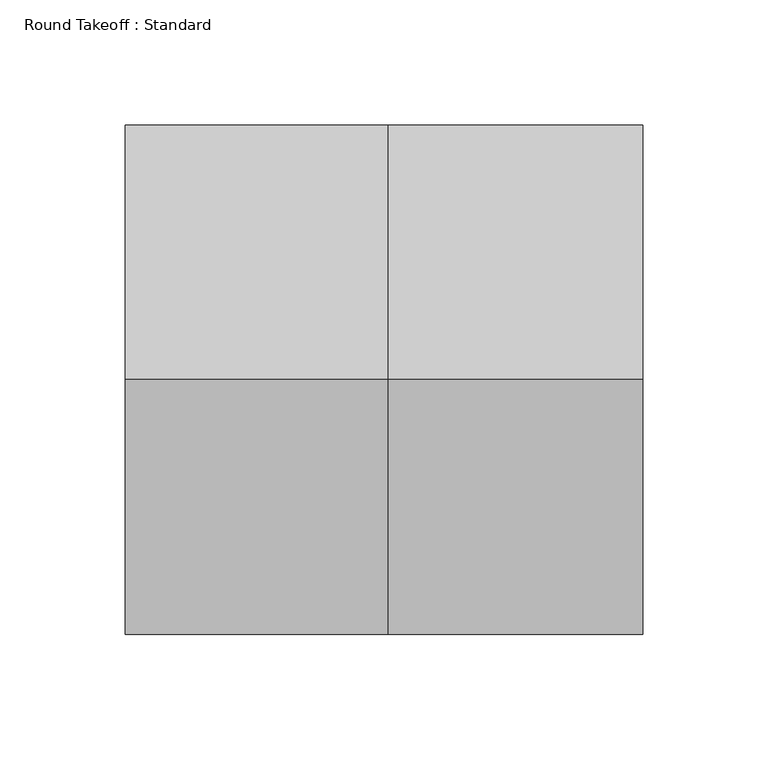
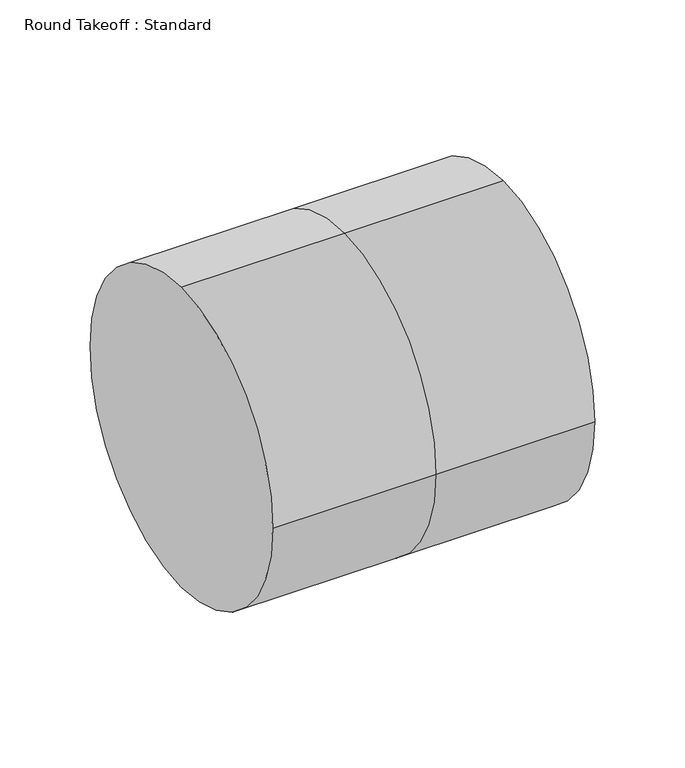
"""IFC4 building model written with IfcOpenShell, lengths in millimetres: duct fitting geometry, Round Takeoff : Standard."""

from ifc_helpers import new_model, si_unit, frame, origin, place, context, project, spatial, circle_curve, source, transform, mapped, element, save
from ifc_brep_helpers import plane_surface, cylinder_surface, advanced_brep


def round_takeoff_standard_dc6cb68b(model_context):
    return source(origin(), model_context, "Body", "AdvancedBrep", [
        advanced_brep(
        [(101.6, 0.0, 101.6), (101.6, -101.6, 0.0), (101.6, 0.0, -101.6), (101.6, 101.6, 0.0), (0.0, 0.0, 101.6), (0.0, -101.6, 0.0), (0.0, 0.0, -101.6), (0.0, 101.6, 0.0), (-104.8070989, 0.0, 101.6), (-104.8070989, 101.6, 0.0), (-104.8070989, 0.0, -101.6), (-104.8070989, -101.6, 0.0)],
        [
            (0, 1, circle_curve(frame((101.6, 0.0, 0.0), z_axis=(1.0, 0.0, 0.0), x_axis=(0.0, -1.0, 0.0)), 101.6)),
            (1, 2, circle_curve(frame((101.6, 0.0, 0.0), z_axis=(1.0, 0.0, 0.0), x_axis=(0.0, -1.0, 0.0)), 101.6)),
            (2, 3, circle_curve(frame((101.6, 0.0, 0.0), z_axis=(1.0, 0.0, 0.0), x_axis=(0.0, -1.0, 0.0)), 101.6)),
            (3, 0, circle_curve(frame((101.6, 0.0, 0.0), z_axis=(1.0, 0.0, 0.0), x_axis=(0.0, -1.0, 0.0)), 101.6)),
            (0, 4),
            (4, 5, circle_curve(frame((0.0, 0.0, 0.0), z_axis=(1.0, 0.0, 0.0), x_axis=(0.0, -1.0, 0.0)), 101.6)),
            (5, 1),
            (5, 6, circle_curve(frame((0.0, 0.0, 0.0), z_axis=(1.0, 0.0, 0.0), x_axis=(0.0, -1.0, 0.0)), 101.6)),
            (6, 2),
            (6, 7, circle_curve(frame((0.0, 0.0, 0.0), z_axis=(1.0, 0.0, 0.0), x_axis=(0.0, -1.0, 0.0)), 101.6)),
            (7, 3),
            (7, 4, circle_curve(frame((0.0, 0.0, 0.0), z_axis=(1.0, 0.0, 0.0), x_axis=(0.0, -1.0, 0.0)), 101.6)),
            (8, 9, circle_curve(frame((-104.8070989, 0.0, 0.0), z_axis=(-1.0, 0.0, 0.0), x_axis=(0.0, -1.0, 0.0)), 101.6)),
            (9, 10, circle_curve(frame((-104.8070989, 0.0, 0.0), z_axis=(-1.0, 0.0, 0.0), x_axis=(0.0, -1.0, 0.0)), 101.6)),
            (10, 11, circle_curve(frame((-104.8070989, 0.0, 0.0), z_axis=(-1.0, 0.0, 0.0), x_axis=(0.0, -1.0, 0.0)), 101.6)),
            (11, 8, circle_curve(frame((-104.8070989, 0.0, 0.0), z_axis=(-1.0, 0.0, 0.0), x_axis=(0.0, -1.0, 0.0)), 101.6)),
            (11, 5),
            (4, 8),
            (10, 6),
            (9, 7),
        ],
        [
            plane_surface(frame((101.6, 0.0, 0.0), z_axis=(1.0, 0.0, 0.0), x_axis=(0.0, 0.0, 1.0))),
            cylinder_surface(frame((0.0, 0.0, 0.0), z_axis=(-1.0, 0.0, 0.0), x_axis=(0.0, -1.0, 0.0)), 101.6),
            plane_surface(frame((-104.8070989, 0.0, 0.0), z_axis=(-1.0, 0.0, 0.0), x_axis=(0.0, 0.0, 1.0))),
            cylinder_surface(frame((-104.8070989, 0.0, 0.0), z_axis=(-1.0, 0.0, 0.0), x_axis=(0.0, -1.0, 0.0)), 101.6),
        ],
        [
            (0, [[1, 2, 3, 4]]),
            (1, [[5, 6, 7, -1]]),
            (1, [[-7, 8, 9, -2]]),
            (1, [[-9, 10, 11, -3]]),
            (1, [[-11, 12, -5, -4]]),
            (2, [[13, 14, 15, 16]]),
            (3, [[17, -6, 18, -16]]),
            (3, [[19, -8, -17, -15]]),
            (3, [[20, -10, -19, -14]]),
            (3, [[-18, -12, -20, -13]]),
        ],
    ),
    ])


if __name__ == "__main__":
    model = new_model("IFC4")
    model_context = context("Model", 3, world=origin())
    ifc_project = project(units=[si_unit("LENGTHUNIT", "METRE", prefix="MILLI")], contexts=[model_context])
    site = spatial("IfcSite", under=ifc_project)
    building = spatial("IfcBuilding", under=site)
    placement = place(None, origin())
    round_takeoff_standard_shape = round_takeoff_standard_dc6cb68b(model_context)
    element("IfcDuctFitting", 1, ObjectType="Round Takeoff : Standard", at=placement, inside=building, context=model_context, shape_type="MappedRepresentation", body=[
        mapped(round_takeoff_standard_shape, transform((0.0, 0.0, 0.0), x_axis=(1.0, 0.0, 0.0), y_axis=(0.0, 1.0, 0.0), z_axis=(0.0, 0.0, 1.0))),
    ])
    save(model, "model.ifc")
